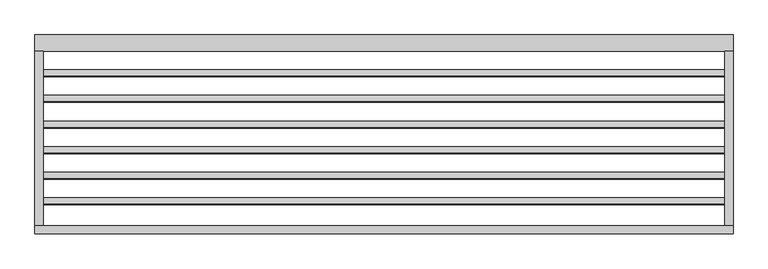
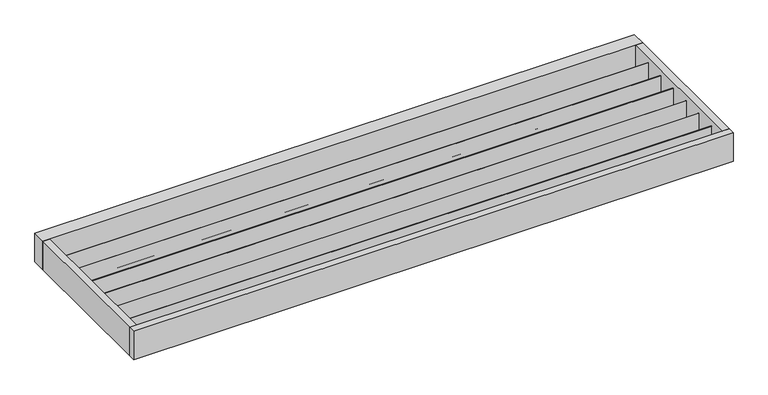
"""IFC4 building model written with IfcOpenShell, lengths in millimetres: proxy geometry, Renson_Amani_Canopy : Renson_Amani_Canopy."""

from ifc_helpers import new_model, si_unit, frame, origin, place, context, project, spatial, polyline, outline, extrude, source, transform, mapped, element, save


def generic_models_3681f2a6(model_context):
    return source(origin(), model_context, "Body", "SweptSolid", [
        extrude(outline(polyline([(-700.0, -99.0), (-700.0, -150.0), (-730.0, -150.0), (-730.0, -27.0), (-728.0, -27.0), (-728.0, -92.0), (-700.0, -99.0)])), frame((35.0, 0.0, 0.0), z_axis=(1.0, 0.0, 0.0), x_axis=(0.0, 1.0, 0.0)), (0.0, 0.0, 1.0), 2930.0),
        extrude(outline(polyline([(-590.0, -99.0), (-590.0, -150.0), (-620.0, -150.0), (-620.0, -27.0), (-618.0, -27.0), (-618.0, -92.0), (-590.0, -99.0)])), frame((35.0, 0.0, 0.0), z_axis=(1.0, 0.0, 0.0), x_axis=(0.0, 1.0, 0.0)), (0.0, 0.0, 1.0), 2930.0),
        extrude(outline(polyline([(-480.0, -99.0), (-480.0, -150.0), (-510.0, -150.0), (-510.0, -27.0), (-508.0, -27.0), (-508.0, -92.0), (-480.0, -99.0)])), frame((35.0, 0.0, 0.0), z_axis=(1.0, 0.0, 0.0), x_axis=(0.0, 1.0, 0.0)), (0.0, 0.0, 1.0), 2930.0),
        extrude(outline(polyline([(-370.0, -99.0), (-370.0, -150.0), (-400.0, -150.0), (-400.0, -27.0), (-398.0, -27.0), (-398.0, -92.0), (-370.0, -99.0)])), frame((35.0, 0.0, 0.0), z_axis=(1.0, 0.0, 0.0), x_axis=(0.0, 1.0, 0.0)), (0.0, 0.0, 1.0), 2930.0),
        extrude(outline(polyline([(-260.0, -99.0), (-260.0, -150.0), (-290.0, -150.0), (-290.0, -27.0), (-288.0, -27.0), (-288.0, -92.0), (-260.0, -99.0)])), frame((35.0, 0.0, 0.0), z_axis=(1.0, 0.0, 0.0), x_axis=(0.0, 1.0, 0.0)), (0.0, 0.0, 1.0), 2930.0),
        extrude(outline(polyline([(-150.0, -99.0), (-150.0, -150.0), (-180.0, -150.0), (-180.0, -27.0), (-178.0, -27.0), (-178.0, -92.0), (-150.0, -99.0)])), frame((35.0, 0.0, 0.0), z_axis=(1.0, 0.0, 0.0), x_axis=(0.0, 1.0, 0.0)), (0.0, 0.0, 1.0), 2930.0),
        extrude(outline(polyline([(3000.0, -855.0), (0.0, -855.0), (0.0, -820.0), (3000.0, -820.0), (3000.0, -855.0)])), frame((0.0, 0.0, -150.0), z_axis=(0.0, 0.0, 1.0), x_axis=(1.0, 0.0, 0.0)), (0.0, 0.0, 1.0), 150.0),
        extrude(outline(polyline([(3000.0, -70.0), (3000.0, -820.0), (2965.0, -820.0), (2965.0, -70.0), (3000.0, -70.0)])), frame((0.0, 0.0, -150.0), z_axis=(0.0, 0.0, 1.0), x_axis=(1.0, 0.0, 0.0)), (0.0, 0.0, 1.0), 150.0),
        extrude(outline(polyline([(35.0, -70.0), (35.0, -820.0), (0.0, -820.0), (0.0, -70.0), (35.0, -70.0)])), frame((0.0, 0.0, -150.0), z_axis=(0.0, 0.0, 1.0), x_axis=(1.0, 0.0, 0.0)), (0.0, 0.0, 1.0), 150.0),
        extrude(outline(polyline([(3000.0, -70.0), (0.0, -70.0), (0.0, 0.0), (3000.0, 0.0), (3000.0, -70.0)])), frame((0.0, 0.0, -150.0), z_axis=(0.0, 0.0, 1.0), x_axis=(1.0, 0.0, 0.0)), (0.0, 0.0, 1.0), 150.0),
    ])


if __name__ == "__main__":
    model = new_model("IFC4")
    model_context = context("Model", 3, world=origin())
    ifc_project = project(units=[si_unit("LENGTHUNIT", "METRE", prefix="MILLI")], contexts=[model_context])
    site = spatial("IfcSite", under=ifc_project)
    building = spatial("IfcBuilding", under=site)
    placement = place(None, origin())
    generic_models_shape = generic_models_3681f2a6(model_context)
    element("IfcBuildingElementProxy", 1, Name="Renson_Amani_Canopy : Renson_Amani_Canopy", ObjectType="Renson_Amani_Canopy : Renson_Amani_Canopy", at=placement, inside=building, context=model_context, shape_type="MappedRepresentation", body=[
        mapped(generic_models_shape, transform((0.0, 0.0, 0.0), x_axis=(1.0, 0.0, 0.0), y_axis=(0.0, 1.0, 0.0), z_axis=(0.0, 0.0, 1.0))),
    ])
    save(model, "model.ifc")
